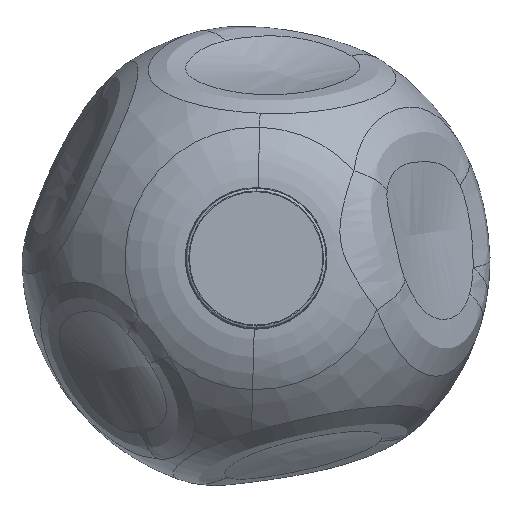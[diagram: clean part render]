
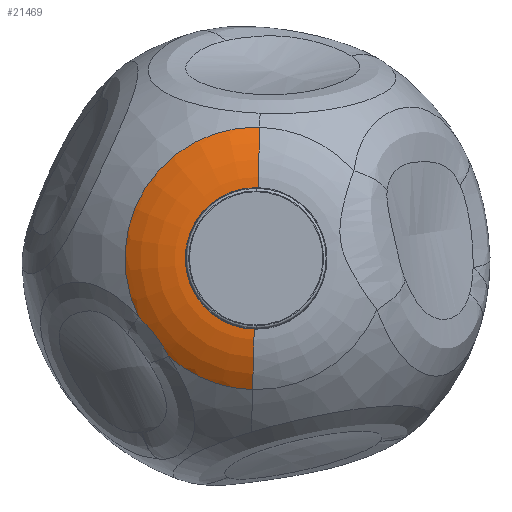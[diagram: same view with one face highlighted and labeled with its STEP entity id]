
A CAD part, front view. The second image highlights one B-rep face of the part: STEP entity #21469.
In plain terms, the highlighted toroidal (fillet/blend) face has major radius 48.727 mm and minor radius 90 mm.
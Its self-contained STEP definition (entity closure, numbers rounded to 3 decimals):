
#233 = CIRCLE ( 'NONE', #28744, 100.888 ) ;
#1231 = DIRECTION ( 'NONE',  ( 0., 1., 0. ) ) ;
#3029 = EDGE_CURVE ( 'NONE', #47845, #4946, #233, .T. ) ;
#3341 = CARTESIAN_POINT ( 'NONE',  ( -90.325, 25.657, -44.942 ) ) ;
#3789 = CARTESIAN_POINT ( 'NONE',  ( -85.762, 24.243, -49.245 ) ) ;
#4946 = VERTEX_POINT ( 'NONE', #21931 ) ;
#7310 = ORIENTED_EDGE ( 'NONE', *, *, #16426, .T. ) ;
#7589 = ORIENTED_EDGE ( 'NONE', *, *, #3029, .F. ) ;
#8260 = DIRECTION ( 'NONE',  ( 0.027, 0., 1. ) ) ;
#11351 = ORIENTED_EDGE ( 'NONE', *, *, #80006, .T. ) ;
#16426 = EDGE_CURVE ( 'NONE', #47845, #87794, #28982, .T. ) ;
#17406 = CIRCLE ( 'NONE', #75727, 90. ) ;
#17487 = CARTESIAN_POINT ( 'NONE',  ( -68.786, 24.883, -72.369 ) ) ;
#20136 = CIRCLE ( 'NONE', #68429, 90. ) ;
#21469 = ADVANCED_FACE ( 'NONE', ( #61730 ), #77735, .T. ) ;
#21931 = CARTESIAN_POINT ( 'NONE',  ( 2.731, 25.657, 100.851 ) ) ;
#22789 = CARTESIAN_POINT ( 'NONE',  ( -1.319, 99., -48.709 ) ) ;
#24334 = CARTESIAN_POINT ( 'NONE',  ( -75.616, 23.356, -61.541 ) ) ;
#24781 = CARTESIAN_POINT ( 'NONE',  ( -72.908, 23.701, -65.539 ) ) ;
#25354 = CARTESIAN_POINT ( 'NONE',  ( 1.319, 9., 48.709 ) ) ;
#28744 = AXIS2_PLACEMENT_3D ( 'NONE', #83582, #48892, #42934 ) ;
#28982 = B_SPLINE_CURVE_WITH_KNOTS ( 'NONE', 3,
 ( #3341, #59039, #3789, #59485, #86868, #87315, #73175, #24334, #52189, #80021, #24781, #52640, #17487, #80468 ),
 .UNSPECIFIED., .F., .F.,
 ( 4, 2, 2, 2, 2, 2, 4 ),
 ( 0., 0.01, 0.019, 0.022, 0.024, 0.029, 0.038 ),
 .UNSPECIFIED. ) ;
#30102 = EDGE_LOOP ( 'NONE', ( #74784, #53117, #11351, #7589, #7310, #81908 ) ) ;
#30141 = CIRCLE ( 'NONE', #88453, 100.888 ) ;
#30313 = EDGE_CURVE ( 'NONE', #39860, #87794, #30141, .T. ) ;
#31480 = CARTESIAN_POINT ( 'NONE',  ( -90.325, 25.657, -44.942 ) ) ;
#37009 = DIRECTION ( 'NONE',  ( -1., 0., 0.027 ) ) ;
#39860 = VERTEX_POINT ( 'NONE', #41880 ) ;
#40441 = EDGE_CURVE ( 'NONE', #50313, #88297, #80485, .T. ) ;
#41880 = CARTESIAN_POINT ( 'NONE',  ( -2.731, 25.657, -100.851 ) ) ;
#42934 = DIRECTION ( 'NONE',  ( 0.027, 0., 1. ) ) ;
#47845 = VERTEX_POINT ( 'NONE', #31480 ) ;
#48436 = AXIS2_PLACEMENT_3D ( 'NONE', #76582, #1231, #90269 ) ;
#48892 = DIRECTION ( 'NONE',  ( 0., 1., 0. ) ) ;
#49358 = CARTESIAN_POINT ( 'NONE',  ( 1.319, 99., 48.709 ) ) ;
#50313 = VERTEX_POINT ( 'NONE', #58456 ) ;
#50643 = DIRECTION ( 'NONE',  ( -0.027, 0., -1. ) ) ;
#51485 = AXIS2_PLACEMENT_3D ( 'NONE', #83170, #75880, #54439 ) ;
#52189 = CARTESIAN_POINT ( 'NONE',  ( -75.153, 23.395, -62.201 ) ) ;
#52640 = CARTESIAN_POINT ( 'NONE',  ( -70.358, 24.298, -69.616 ) ) ;
#53117 = ORIENTED_EDGE ( 'NONE', *, *, #40441, .T. ) ;
#54439 = DIRECTION ( 'NONE',  ( 0.027, 0., 1. ) ) ;
#57496 = DIRECTION ( 'NONE',  ( 1., 0., -0.027 ) ) ;
#58456 = CARTESIAN_POINT ( 'NONE',  ( -1.319, 9., -48.709 ) ) ;
#59039 = CARTESIAN_POINT ( 'NONE',  ( -87.995, 24.835, -47.032 ) ) ;
#59485 = CARTESIAN_POINT ( 'NONE',  ( -81.494, 23.464, -53.911 ) ) ;
#61730 = FACE_OUTER_BOUND ( 'NONE', #30102, .T. ) ;
#68429 = AXIS2_PLACEMENT_3D ( 'NONE', #49358, #37009, #8260 ) ;
#68726 = DIRECTION ( 'NONE',  ( 0.027, 0., 1. ) ) ;
#69175 = DIRECTION ( 'NONE',  ( 0., 1., 0. ) ) ;
#69620 = CARTESIAN_POINT ( 'NONE',  ( 0., 25.657, 0. ) ) ;
#73175 = CARTESIAN_POINT ( 'NONE',  ( -76.558, 23.302, -60.23 ) ) ;
#74649 = CARTESIAN_POINT ( 'NONE',  ( -67.32, 25.657, -75.142 ) ) ;
#74784 = ORIENTED_EDGE ( 'NONE', *, *, #76055, .F. ) ;
#75727 = AXIS2_PLACEMENT_3D ( 'NONE', #22789, #57496, #50643 ) ;
#75880 = DIRECTION ( 'NONE',  ( 0., 1., 0. ) ) ;
#76055 = EDGE_CURVE ( 'NONE', #50313, #39860, #17406, .T. ) ;
#76582 = CARTESIAN_POINT ( 'NONE',  ( 0., 9., 0. ) ) ;
#77735 = TOROIDAL_SURFACE ( 'NONE', #51485, 48.727, 90. ) ;
#80006 = EDGE_CURVE ( 'NONE', #88297, #4946, #20136, .T. ) ;
#80021 = CARTESIAN_POINT ( 'NONE',  ( -73.788, 23.549, -64.193 ) ) ;
#80468 = CARTESIAN_POINT ( 'NONE',  ( -67.32, 25.657, -75.142 ) ) ;
#80485 = CIRCLE ( 'NONE', #48436, 48.727 ) ;
#81908 = ORIENTED_EDGE ( 'NONE', *, *, #30313, .F. ) ;
#83170 = CARTESIAN_POINT ( 'NONE',  ( 0., 99., 0. ) ) ;
#83582 = CARTESIAN_POINT ( 'NONE',  ( 0., 25.657, 0. ) ) ;
#86868 = CARTESIAN_POINT ( 'NONE',  ( -79.459, 23.276, -56.364 ) ) ;
#87315 = CARTESIAN_POINT ( 'NONE',  ( -77.037, 23.287, -59.579 ) ) ;
#87794 = VERTEX_POINT ( 'NONE', #74649 ) ;
#88297 = VERTEX_POINT ( 'NONE', #25354 ) ;
#88453 = AXIS2_PLACEMENT_3D ( 'NONE', #69620, #69175, #68726 ) ;
#90269 = DIRECTION ( 'NONE',  ( -0.027, 0., -1. ) ) ;
